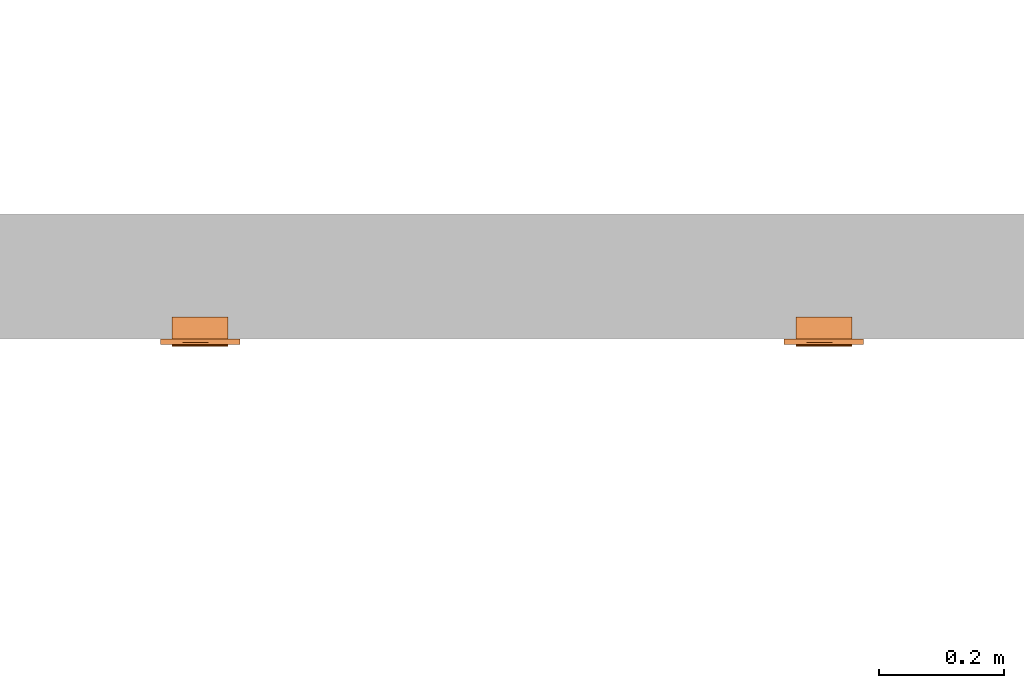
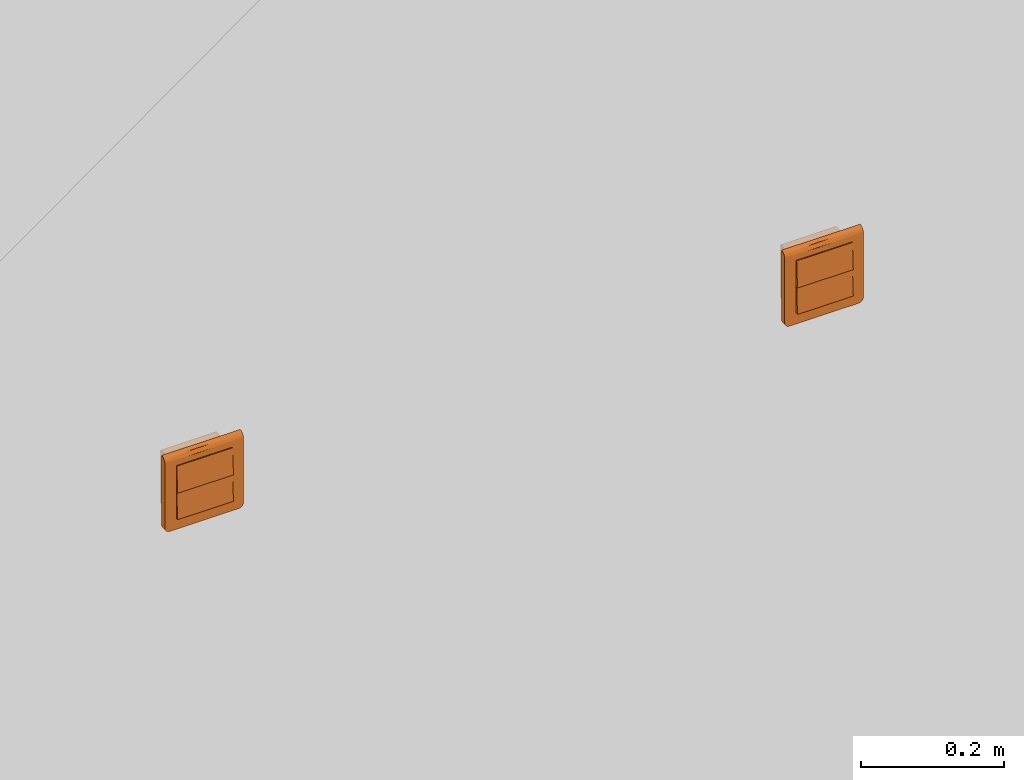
# One storey, part 174 of 197: 2 proxies.
"""IFC2X3 building model written with IfcOpenShell, lengths in metres."""

from ifc_helpers import new_model, entity, si_unit, converted_unit, direction, frame, origin, place, context, subcontext, project, spatial, faceted_brep, source, transform, mapped, material, material_list, type_object, type_shapes, element, save


model = new_model("IFC2X3")

# Units and contexts
model_context = context("Model", 3, precision=1e-05, world=origin(), true_north=direction((6.123031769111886e-17, 1.0)))
body_context = subcontext(model_context, "Body", "Model", "MODEL_VIEW")
ifc_project = project(units=[si_unit("LENGTHUNIT", "METRE"), converted_unit("PLANEANGLEUNIT", "DEGREE", entity("IfcPlaneAngleMeasure", 0.017453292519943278), si_unit("PLANEANGLEUNIT", "RADIAN"), dimensions=[0, 0, 0, 0, 0, 0, 0]), si_unit("AREAUNIT", "SQUARE_METRE")], contexts=[model_context])

# Site, building, storey
site_placement = place(None, origin())
site = spatial("IfcSite", under=ifc_project, at=site_placement, Name="Default", CompositionType="ELEMENT")
building_placement = place(site_placement, origin())
building = spatial("IfcBuilding", under=site, at=building_placement, CompositionType="ELEMENT")
storey_placement = place(building_placement, origin())
storey = spatial("IfcBuildingStorey", under=building, at=storey_placement, Name="Niveau 0", CompositionType="ELEMENT", Elevation=0.0)

# Proxies
ifc_material_1 = material(Name="<Unnamed>")
ifc_material_2 = material(Name="BETCE-DOIGT-BLANC")
ifc_material_3 = material(Name="BETCE-ENJOLIVEUR-BLANC")
ifc_material_list = material_list([ifc_material_1, ifc_material_2, ifc_material_3])
building_element_proxy_type_1 = type_object("IfcBuildingElementProxyType", Name="Tableau commande 2x4 modules encastré:1 BP + 7 SA", PredefinedType="NOTDEFINED", material=ifc_material_list)
shared_shape_1 = source(origin(), body_context, "Body", "Brep", [
    faceted_brep([(0.04499999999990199, 0.0, 0.0), (0.04499999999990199, 0.03499999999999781, 0.0), (0.022499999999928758, 0.03499999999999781, 0.0), (0.022499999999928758, 0.0, 0.0), (0.04499999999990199, 0.0, -0.045000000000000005), (0.022499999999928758, 0.0, -0.045000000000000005), (0.022499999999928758, 0.03499999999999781, -0.045000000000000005), (0.04499999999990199, 0.03499999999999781, -0.045000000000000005)], [[[0, 1, 2, 3]], [[4, 5, 6, 7]], [[1, 0, 4, 7]], [[2, 1, 7, 6]], [[3, 2, 6, 5]], [[0, 3, 5, 4]]]),
    faceted_brep([(0.04499999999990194, 0.0, 0.045000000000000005), (0.04499999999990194, 0.03499999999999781, 0.045000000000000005), (0.022499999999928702, 0.03499999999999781, 0.045000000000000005), (0.022499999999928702, 0.0, 0.045000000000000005), (0.04499999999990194, 0.0, 0.0), (0.022499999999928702, 0.0, 0.0), (0.022499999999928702, 0.03499999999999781, 0.0), (0.04499999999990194, 0.03499999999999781, 0.0)], [[[0, 1, 2, 3]], [[4, 5, 6, 7]], [[1, 0, 4, 7]], [[2, 1, 7, 6]], [[3, 2, 6, 5]], [[0, 3, 5, 4]]]),
    faceted_brep([(0.022499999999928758, 0.0, 0.0), (0.022499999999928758, 0.03499999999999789, 0.0), (0.0, 0.03499999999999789, 0.0), (0.0, 0.0, 0.0), (0.022499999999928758, 0.0, -0.045000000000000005), (0.0, 0.0, -0.045000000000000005), (0.0, 0.03499999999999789, -0.045000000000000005), (0.022499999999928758, 0.03499999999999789, -0.045000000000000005)], [[[0, 1, 2, 3]], [[4, 5, 6, 7]], [[1, 0, 4, 7]], [[2, 1, 7, 6]], [[3, 2, 6, 5]], [[0, 3, 5, 4]]]),
    faceted_brep([(0.0224999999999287, 0.0, 0.045000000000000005), (0.0224999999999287, 0.03499999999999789, 0.045000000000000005), (0.0, 0.03499999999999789, 0.045000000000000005), (0.0, 0.0, 0.045000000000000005), (0.0224999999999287, 0.0, 0.0), (0.0, 0.0, 0.0), (0.0, 0.03499999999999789, 0.0), (0.0224999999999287, 0.03499999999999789, 0.0)], [[[0, 1, 2, 3]], [[4, 5, 6, 7]], [[1, 0, 4, 7]], [[2, 1, 7, 6]], [[3, 2, 6, 5]], [[0, 3, 5, 4]]]),
    faceted_brep([(0.0, 0.0, 0.0), (0.0, 0.034999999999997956, 0.0), (-0.022500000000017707, 0.034999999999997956, 0.0), (-0.022500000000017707, 0.0, 0.0), (0.0, 0.0, -0.045000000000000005), (-0.022500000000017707, 0.0, -0.045000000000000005), (-0.022500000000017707, 0.034999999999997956, -0.045000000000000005), (0.0, 0.034999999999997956, -0.045000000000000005)], [[[0, 1, 2, 3]], [[4, 5, 6, 7]], [[1, 0, 4, 7]], [[2, 1, 7, 6]], [[3, 2, 6, 5]], [[0, 3, 5, 4]]]),
    faceted_brep([(0.0, 0.0, 0.045000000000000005), (0.0, 0.034999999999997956, 0.045000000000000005), (-0.022500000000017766, 0.034999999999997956, 0.045000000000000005), (-0.022500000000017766, 0.0, 0.045000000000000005), (0.0, 0.0, 0.0), (-0.022500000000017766, 0.0, 0.0), (-0.022500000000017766, 0.034999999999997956, 0.0), (0.0, 0.034999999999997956, 0.0)], [[[0, 1, 2, 3]], [[4, 5, 6, 7]], [[1, 0, 4, 7]], [[2, 1, 7, 6]], [[3, 2, 6, 5]], [[0, 3, 5, 4]]]),
    faceted_brep([(-0.02250000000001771, 0.0, 0.0), (-0.02250000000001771, 0.034999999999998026, 0.0), (-0.044999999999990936, 0.034999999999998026, 0.0), (-0.044999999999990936, 0.0, 0.0), (-0.02250000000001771, 0.0, -0.045000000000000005), (-0.044999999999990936, 0.0, -0.045000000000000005), (-0.044999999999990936, 0.034999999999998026, -0.045000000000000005), (-0.02250000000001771, 0.034999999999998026, -0.045000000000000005)], [[[0, 1, 2, 3]], [[4, 5, 6, 7]], [[1, 0, 4, 7]], [[2, 1, 7, 6]], [[3, 2, 6, 5]], [[0, 3, 5, 4]]]),
    faceted_brep([(-0.022500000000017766, 0.0, 0.045000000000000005), (-0.022500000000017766, 0.034999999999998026, 0.045000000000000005), (-0.044999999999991, 0.034999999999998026, 0.045000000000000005), (-0.044999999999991, 0.0, 0.045000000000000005), (-0.022500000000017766, 0.0, 0.0), (-0.044999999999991, 0.0, 0.0), (-0.044999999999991, 0.034999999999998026, 0.0), (-0.022500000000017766, 0.034999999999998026, 0.0)], [[[0, 1, 2, 3]], [[4, 5, 6, 7]], [[1, 0, 4, 7]], [[2, 1, 7, 6]], [[3, 2, 6, 5]], [[0, 3, 5, 4]]]),
    faceted_brep([(0.022499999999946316, 0.0, -0.045000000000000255), (0.022499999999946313, 0.0, 0.0), (0.04499999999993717, 0.0, 0.0), (0.04499999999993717, 0.0, -0.045000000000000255), (0.022499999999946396, -0.012750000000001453, -0.045000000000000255), (0.022499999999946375, -0.010500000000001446, 0.0), (0.044999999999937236, -0.010500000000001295, 0.0), (0.04499999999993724, -0.012750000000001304, -0.045000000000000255)], [[[0, 1, 2, 3]], [[1, 0, 4, 5]], [[2, 1, 5, 6]], [[3, 2, 6, 7]], [[0, 3, 7, 4]], [[5, 4, 7, 6]]]),
    faceted_brep([(0.0, 0.0, -0.04500000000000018), (0.0, 0.0, 0.0), (0.022499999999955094, 0.0, 0.0), (0.022499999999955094, 0.0, -0.04500000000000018), (0.0, -0.012750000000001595, -0.04500000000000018), (0.0, -0.010500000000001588, 0.0), (0.022499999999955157, -0.01050000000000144, 0.0), (0.022499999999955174, -0.012750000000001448, -0.04500000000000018)], [[[0, 1, 2, 3]], [[1, 0, 4, 5]], [[2, 1, 5, 6]], [[3, 2, 6, 7]], [[0, 3, 7, 4]], [[5, 4, 7, 6]]]),
    faceted_brep([(-0.022500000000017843, 0.0, -0.0450000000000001), (-0.022500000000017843, 0.0, 0.0), (0.0, 0.0, 0.0), (0.0, 0.0, -0.0450000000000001), (-0.02250000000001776, -0.012750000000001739, -0.0450000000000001), (-0.022500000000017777, -0.010500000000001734, 0.0), (0.0, -0.010500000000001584, 0.0), (0.0, -0.012750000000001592, -0.0450000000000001)], [[[0, 1, 2, 3]], [[1, 0, 4, 5]], [[2, 1, 5, 6]], [[3, 2, 6, 7]], [[0, 3, 7, 4]], [[5, 4, 7, 6]]]),
    faceted_brep([(-0.04499999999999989, 0.0, -0.045000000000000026), (-0.04499999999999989, 0.0, 0.0), (-0.022500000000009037, 0.0, 0.0), (-0.022500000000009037, 0.0, -0.045000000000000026), (-0.04499999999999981, -0.012750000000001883, -0.045000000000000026), (-0.04499999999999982, -0.010500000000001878, 0.0), (-0.022500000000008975, -0.01050000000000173, 0.0), (-0.022500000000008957, -0.012750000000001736, -0.045000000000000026)], [[[0, 1, 2, 3]], [[1, 0, 4, 5]], [[2, 1, 5, 6]], [[3, 2, 6, 7]], [[0, 3, 7, 4]], [[5, 4, 7, 6]]]),
    faceted_brep([(0.02249999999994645, -0.010500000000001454, 0.04499999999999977), (0.022499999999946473, -0.012750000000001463, 0.0), (0.04499999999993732, -0.012750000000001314, 0.0), (0.044999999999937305, -0.010500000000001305, 0.04499999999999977), (0.022499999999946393, 0.0, 0.0), (0.02249999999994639, 0.0, 0.04499999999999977), (0.04499999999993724, 0.0, 0.04499999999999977), (0.04499999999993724, 0.0, 0.0)], [[[0, 1, 2, 3]], [[4, 5, 6, 7]], [[5, 4, 1, 0]], [[6, 5, 0, 3]], [[7, 6, 3, 2]], [[4, 7, 2, 1]]]),
    faceted_brep([(0.0, -0.010500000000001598, 0.044999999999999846), (0.0, -0.012750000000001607, 0.0), (0.02249999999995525, -0.012750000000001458, 0.0), (0.022499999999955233, -0.010500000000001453, 0.044999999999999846), (0.0, 0.0, 0.0), (0.0, 0.0, 0.044999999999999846), (0.02249999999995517, 0.0, 0.04499999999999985), (0.02249999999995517, 0.0, 0.0)], [[[0, 1, 2, 3]], [[4, 5, 6, 7]], [[5, 4, 1, 0]], [[6, 5, 0, 3]], [[7, 6, 3, 2]], [[4, 7, 2, 1]]]),
    faceted_brep([(-0.0225000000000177, -0.010500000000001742, 0.04499999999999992), (-0.022500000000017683, -0.01275000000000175, 0.0), (0.0, -0.012750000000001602, 0.0), (0.0, -0.010500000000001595, 0.04499999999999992), (-0.022500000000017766, 0.0, 0.0), (-0.022500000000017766, 0.0, 0.04499999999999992), (0.0, 0.0, 0.04499999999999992), (0.0, 0.0, 0.0)], [[[0, 1, 2, 3]], [[4, 5, 6, 7]], [[5, 4, 1, 0]], [[6, 5, 0, 3]], [[7, 6, 3, 2]], [[4, 7, 2, 1]]]),
    faceted_brep([(-0.044999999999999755, -0.010500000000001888, 0.045), (-0.044999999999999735, -0.012750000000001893, 0.0), (-0.02250000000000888, -0.012750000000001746, 0.0), (-0.0225000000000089, -0.010500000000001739, 0.045), (-0.04499999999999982, 0.0, 0.0), (-0.04499999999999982, 0.0, 0.045), (-0.022500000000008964, 0.0, 0.045000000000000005), (-0.022500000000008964, 0.0, 0.0)], [[[0, 1, 2, 3]], [[4, 5, 6, 7]], [[5, 4, 1, 0]], [[6, 5, 0, 3]], [[7, 6, 3, 2]], [[4, 7, 2, 1]]]),
    faceted_brep([(0.06350000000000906, -0.009000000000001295, -0.055500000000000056), (0.06350000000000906, -0.009000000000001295, 0.05450000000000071), (0.045000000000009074, -0.00900000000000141, -0.045000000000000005), (0.055500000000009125, -0.009000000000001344, -0.06350000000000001), (0.057570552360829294, -0.009000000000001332, -0.06322740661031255), (0.06322740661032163, -0.009000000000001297, -0.05757055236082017), (0.04500000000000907, -0.00900000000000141, 0.045), (-0.044999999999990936, -0.00900000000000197, 0.045000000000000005), (-0.01112442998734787, -0.009000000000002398, 0.054500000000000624), (-0.06349999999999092, -0.009000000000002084, 0.05450000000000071), (-0.044999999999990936, -0.00900000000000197, -0.045000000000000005), (-0.06349999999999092, -0.009000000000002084, -0.05550000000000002), (-0.055499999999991, -0.009000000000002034, -0.06350000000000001), (-0.0575705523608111, -0.009000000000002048, -0.06322740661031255), (-0.06322740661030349, -0.009000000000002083, -0.05757055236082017), (-0.05949999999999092, -0.00900000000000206, -0.062428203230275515), (-0.062428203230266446, -0.009000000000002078, -0.05950000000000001), (-0.06115685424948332, -0.00900000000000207, -0.06115685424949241), (0.059500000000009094, -0.00900000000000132, -0.062428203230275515), (0.062428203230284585, -0.009000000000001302, -0.05949999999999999), (0.06115685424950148, -0.009000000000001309, -0.061156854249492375), (-0.063499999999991, 0.0, -0.05550000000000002), (-0.063499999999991, 0.0, 0.06350000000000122), (-0.044999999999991, 0.0, 0.045000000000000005), (-0.044999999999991, 0.0, -0.045000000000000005), (-0.055499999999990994, 0.0, -0.06350000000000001), (-0.06322740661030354, 0.0, -0.05757055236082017), (0.045000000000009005, 0.0, 0.045000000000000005), (0.011124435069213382, 0.0, 0.06350000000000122), (0.06350000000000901, 0.0, 0.0635), (0.06350000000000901, 0.0, -0.05550000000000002), (0.045000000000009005, 0.0, -0.045000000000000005), (0.05550000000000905, 0.0, -0.06350000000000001), (0.06322740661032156, 0.0, -0.05757055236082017), (0.057570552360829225, 0.0, -0.06322740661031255), (0.06242820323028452, 0.0, -0.05949999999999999), (0.05950000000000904, 0.0, -0.062428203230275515), (0.06115685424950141, 0.0, -0.061156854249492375), (-0.05757055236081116, 0.0, -0.06322740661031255), (-0.0624282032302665, 0.0, -0.05950000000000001), (-0.059499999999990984, 0.0, -0.062428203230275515), (-0.06115685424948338, 0.0, -0.06115685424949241), (0.06350000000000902, -0.00232937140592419, 0.06319333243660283), (0.06350000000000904, -0.004500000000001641, 0.06229422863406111), (0.06350000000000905, -0.006363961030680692, 0.06086396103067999), (0.06350000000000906, -0.007794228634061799, 0.05900000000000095), (0.06350000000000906, -0.008693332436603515, 0.056829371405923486), (-0.06349999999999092, -0.00869333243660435, 0.0568293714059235), (-0.06349999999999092, -0.007794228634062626, 0.059000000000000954), (-0.06349999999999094, -0.006363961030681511, 0.06086396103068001), (-0.06349999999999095, -0.004500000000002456, 0.062294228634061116), (-0.06349999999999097, -0.002329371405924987, 0.06319333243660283), (-0.010857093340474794, -0.006120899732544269, 0.06109807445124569)], [[[0, 1, 2]], [[3, 0, 2]], [[0, 3, 4]], [[5, 0, 4]], [[2, 1, 6]], [[1, 7, 6]], [[7, 1, 8]], [[7, 8, 9]], [[10, 7, 9]], [[11, 10, 9]], [[12, 10, 11]], [[12, 11, 13]], [[13, 11, 14]], [[15, 13, 14]], [[16, 15, 14]], [[15, 16, 17]], [[10, 12, 3]], [[2, 10, 3]], [[5, 4, 18]], [[5, 18, 19]], [[20, 19, 18]], [[21, 22, 23]], [[24, 21, 23]], [[25, 21, 24]], [[26, 21, 25]], [[22, 27, 23]], [[27, 22, 28]], [[27, 28, 29]], [[30, 27, 29]], [[31, 27, 30]], [[32, 31, 30]], [[32, 30, 33]], [[32, 33, 34]], [[33, 35, 34]], [[35, 36, 34]], [[36, 35, 37]], [[31, 32, 25]], [[26, 25, 38]], [[24, 31, 25]], [[39, 26, 38]], [[39, 38, 40]], [[41, 39, 40]], [[1, 0, 30, 29, 42, 43, 44, 45, 46]], [[33, 30, 0, 5]], [[35, 33, 5, 19]], [[37, 35, 19, 20]], [[36, 37, 20, 18]], [[34, 36, 18, 4]], [[32, 34, 4, 3]], [[25, 32, 3, 12]], [[38, 25, 12, 13]], [[40, 38, 13, 15]], [[41, 40, 15, 17]], [[39, 41, 17, 16]], [[26, 39, 16, 14]], [[21, 26, 14, 11]], [[22, 21, 11, 9, 47, 48, 49, 50, 51]], [[24, 23, 7, 10]], [[31, 24, 10, 2]], [[27, 31, 2, 6]], [[23, 27, 6, 7]], [[52, 8, 45]], [[47, 9, 8]], [[1, 46, 8]], [[44, 52, 45]], [[46, 45, 8]], [[50, 52, 51]], [[48, 47, 8]], [[28, 52, 43]], [[48, 52, 49]], [[42, 29, 28]], [[28, 22, 51]], [[48, 8, 52]], [[28, 43, 42]], [[44, 43, 52]], [[52, 50, 49]], [[52, 28, 51]]]),
])
type_shapes(building_element_proxy_type_1, [shared_shape_1])
proxy_1_placement = place(storey_placement, frame((-362.53477966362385, 122.781355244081, 1.1)))
element("IfcBuildingElementProxy", 1, at=proxy_1_placement, inside=storey, type_object=building_element_proxy_type_1, material=ifc_material_list, Name="Tableau commande 2x4 modules encastré:1 BP + 7 SA", ObjectType="Tableau commande 2x4 modules encastré:1 BP + 7 SA", context=body_context, shape_type="MappedRepresentation", body=[
    mapped(shared_shape_1, transform((0.0, 0.0, 0.0), scale=1.0)),
])
building_element_proxy_type_2 = type_object("IfcBuildingElementProxyType", Name="Tableau commande 2x4 modules encastré:2 BP + 6 SA", PredefinedType="NOTDEFINED", material=ifc_material_list)
shared_shape_2 = source(origin(), body_context, "Body", "Brep", [
    faceted_brep([(0.04499999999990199, 0.0, 0.0), (0.04499999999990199, 0.03499999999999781, 0.0), (0.022499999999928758, 0.03499999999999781, 0.0), (0.022499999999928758, 0.0, 0.0), (0.04499999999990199, 0.0, -0.045000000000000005), (0.022499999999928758, 0.0, -0.045000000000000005), (0.022499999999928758, 0.03499999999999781, -0.045000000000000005), (0.04499999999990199, 0.03499999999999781, -0.045000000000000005)], [[[0, 1, 2, 3]], [[4, 5, 6, 7]], [[1, 0, 4, 7]], [[2, 1, 7, 6]], [[3, 2, 6, 5]], [[0, 3, 5, 4]]]),
    faceted_brep([(0.04499999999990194, 0.0, 0.045000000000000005), (0.04499999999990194, 0.03499999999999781, 0.045000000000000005), (0.022499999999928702, 0.03499999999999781, 0.045000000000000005), (0.022499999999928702, 0.0, 0.045000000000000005), (0.04499999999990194, 0.0, 0.0), (0.022499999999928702, 0.0, 0.0), (0.022499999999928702, 0.03499999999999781, 0.0), (0.04499999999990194, 0.03499999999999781, 0.0)], [[[0, 1, 2, 3]], [[4, 5, 6, 7]], [[1, 0, 4, 7]], [[2, 1, 7, 6]], [[3, 2, 6, 5]], [[0, 3, 5, 4]]]),
    faceted_brep([(0.022499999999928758, 0.0, 0.0), (0.022499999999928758, 0.03499999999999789, 0.0), (0.0, 0.03499999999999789, 0.0), (0.0, 0.0, 0.0), (0.022499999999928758, 0.0, -0.045000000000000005), (0.0, 0.0, -0.045000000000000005), (0.0, 0.03499999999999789, -0.045000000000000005), (0.022499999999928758, 0.03499999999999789, -0.045000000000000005)], [[[0, 1, 2, 3]], [[4, 5, 6, 7]], [[1, 0, 4, 7]], [[2, 1, 7, 6]], [[3, 2, 6, 5]], [[0, 3, 5, 4]]]),
    faceted_brep([(0.0224999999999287, 0.0, 0.045000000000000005), (0.0224999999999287, 0.03499999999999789, 0.045000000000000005), (0.0, 0.03499999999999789, 0.045000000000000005), (0.0, 0.0, 0.045000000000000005), (0.0224999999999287, 0.0, 0.0), (0.0, 0.0, 0.0), (0.0, 0.03499999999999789, 0.0), (0.0224999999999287, 0.03499999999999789, 0.0)], [[[0, 1, 2, 3]], [[4, 5, 6, 7]], [[1, 0, 4, 7]], [[2, 1, 7, 6]], [[3, 2, 6, 5]], [[0, 3, 5, 4]]]),
    faceted_brep([(0.0, 0.0, 0.0), (0.0, 0.034999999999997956, 0.0), (-0.022500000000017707, 0.034999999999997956, 0.0), (-0.022500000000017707, 0.0, 0.0), (0.0, 0.0, -0.045000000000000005), (-0.022500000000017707, 0.0, -0.045000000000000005), (-0.022500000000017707, 0.034999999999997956, -0.045000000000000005), (0.0, 0.034999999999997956, -0.045000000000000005)], [[[0, 1, 2, 3]], [[4, 5, 6, 7]], [[1, 0, 4, 7]], [[2, 1, 7, 6]], [[3, 2, 6, 5]], [[0, 3, 5, 4]]]),
    faceted_brep([(0.0, 0.0, 0.045000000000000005), (0.0, 0.034999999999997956, 0.045000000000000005), (-0.022500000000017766, 0.034999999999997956, 0.045000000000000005), (-0.022500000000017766, 0.0, 0.045000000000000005), (0.0, 0.0, 0.0), (-0.022500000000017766, 0.0, 0.0), (-0.022500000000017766, 0.034999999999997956, 0.0), (0.0, 0.034999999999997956, 0.0)], [[[0, 1, 2, 3]], [[4, 5, 6, 7]], [[1, 0, 4, 7]], [[2, 1, 7, 6]], [[3, 2, 6, 5]], [[0, 3, 5, 4]]]),
    faceted_brep([(-0.02250000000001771, 0.0, 0.0), (-0.02250000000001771, 0.034999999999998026, 0.0), (-0.044999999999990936, 0.034999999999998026, 0.0), (-0.044999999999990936, 0.0, 0.0), (-0.02250000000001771, 0.0, -0.045000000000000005), (-0.044999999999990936, 0.0, -0.045000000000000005), (-0.044999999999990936, 0.034999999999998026, -0.045000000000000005), (-0.02250000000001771, 0.034999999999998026, -0.045000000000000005)], [[[0, 1, 2, 3]], [[4, 5, 6, 7]], [[1, 0, 4, 7]], [[2, 1, 7, 6]], [[3, 2, 6, 5]], [[0, 3, 5, 4]]]),
    faceted_brep([(-0.022500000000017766, 0.0, 0.045000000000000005), (-0.022500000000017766, 0.034999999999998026, 0.045000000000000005), (-0.044999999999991, 0.034999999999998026, 0.045000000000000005), (-0.044999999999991, 0.0, 0.045000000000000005), (-0.022500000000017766, 0.0, 0.0), (-0.044999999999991, 0.0, 0.0), (-0.044999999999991, 0.034999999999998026, 0.0), (-0.022500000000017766, 0.034999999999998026, 0.0)], [[[0, 1, 2, 3]], [[4, 5, 6, 7]], [[1, 0, 4, 7]], [[2, 1, 7, 6]], [[3, 2, 6, 5]], [[0, 3, 5, 4]]]),
    faceted_brep([(0.022499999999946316, 0.0, -0.045000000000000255), (0.022499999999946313, 0.0, 0.0), (0.04499999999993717, 0.0, 0.0), (0.04499999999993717, 0.0, -0.045000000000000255), (0.022499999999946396, -0.012750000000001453, -0.045000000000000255), (0.022499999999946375, -0.010500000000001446, 0.0), (0.044999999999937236, -0.010500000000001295, 0.0), (0.04499999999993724, -0.012750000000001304, -0.045000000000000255)], [[[0, 1, 2, 3]], [[1, 0, 4, 5]], [[2, 1, 5, 6]], [[3, 2, 6, 7]], [[0, 3, 7, 4]], [[5, 4, 7, 6]]]),
    faceted_brep([(0.0, 0.0, -0.04500000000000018), (0.0, 0.0, 0.0), (0.022499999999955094, 0.0, 0.0), (0.022499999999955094, 0.0, -0.04500000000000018), (0.0, -0.012750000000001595, -0.04500000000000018), (0.0, -0.010500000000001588, 0.0), (0.022499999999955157, -0.01050000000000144, 0.0), (0.022499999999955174, -0.012750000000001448, -0.04500000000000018)], [[[0, 1, 2, 3]], [[1, 0, 4, 5]], [[2, 1, 5, 6]], [[3, 2, 6, 7]], [[0, 3, 7, 4]], [[5, 4, 7, 6]]]),
    faceted_brep([(-0.022500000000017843, 0.0, -0.0450000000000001), (-0.022500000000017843, 0.0, 0.0), (0.0, 0.0, 0.0), (0.0, 0.0, -0.0450000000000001), (-0.02250000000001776, -0.012750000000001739, -0.0450000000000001), (-0.022500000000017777, -0.010500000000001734, 0.0), (0.0, -0.010500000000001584, 0.0), (0.0, -0.012750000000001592, -0.0450000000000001)], [[[0, 1, 2, 3]], [[1, 0, 4, 5]], [[2, 1, 5, 6]], [[3, 2, 6, 7]], [[0, 3, 7, 4]], [[5, 4, 7, 6]]]),
    faceted_brep([(-0.04499999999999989, 0.0, -0.045000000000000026), (-0.04499999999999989, 0.0, 0.0), (-0.022500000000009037, 0.0, 0.0), (-0.022500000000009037, 0.0, -0.045000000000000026), (-0.04499999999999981, -0.012750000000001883, -0.045000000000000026), (-0.04499999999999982, -0.010500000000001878, 0.0), (-0.022500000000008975, -0.01050000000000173, 0.0), (-0.022500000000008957, -0.012750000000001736, -0.045000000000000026)], [[[0, 1, 2, 3]], [[1, 0, 4, 5]], [[2, 1, 5, 6]], [[3, 2, 6, 7]], [[0, 3, 7, 4]], [[5, 4, 7, 6]]]),
    faceted_brep([(0.02249999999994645, -0.010500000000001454, 0.04499999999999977), (0.022499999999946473, -0.012750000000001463, 0.0), (0.04499999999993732, -0.012750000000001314, 0.0), (0.044999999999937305, -0.010500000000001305, 0.04499999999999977), (0.022499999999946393, 0.0, 0.0), (0.02249999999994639, 0.0, 0.04499999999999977), (0.04499999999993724, 0.0, 0.04499999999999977), (0.04499999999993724, 0.0, 0.0)], [[[0, 1, 2, 3]], [[4, 5, 6, 7]], [[5, 4, 1, 0]], [[6, 5, 0, 3]], [[7, 6, 3, 2]], [[4, 7, 2, 1]]]),
    faceted_brep([(0.0, -0.010500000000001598, 0.044999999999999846), (0.0, -0.012750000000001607, 0.0), (0.02249999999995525, -0.012750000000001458, 0.0), (0.022499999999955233, -0.010500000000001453, 0.044999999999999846), (0.0, 0.0, 0.0), (0.0, 0.0, 0.044999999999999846), (0.02249999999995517, 0.0, 0.04499999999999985), (0.02249999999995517, 0.0, 0.0)], [[[0, 1, 2, 3]], [[4, 5, 6, 7]], [[5, 4, 1, 0]], [[6, 5, 0, 3]], [[7, 6, 3, 2]], [[4, 7, 2, 1]]]),
    faceted_brep([(-0.0225000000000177, -0.010500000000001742, 0.04499999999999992), (-0.022500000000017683, -0.01275000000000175, 0.0), (0.0, -0.012750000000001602, 0.0), (0.0, -0.010500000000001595, 0.04499999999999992), (-0.022500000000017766, 0.0, 0.0), (-0.022500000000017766, 0.0, 0.04499999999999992), (0.0, 0.0, 0.04499999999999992), (0.0, 0.0, 0.0)], [[[0, 1, 2, 3]], [[4, 5, 6, 7]], [[5, 4, 1, 0]], [[6, 5, 0, 3]], [[7, 6, 3, 2]], [[4, 7, 2, 1]]]),
    faceted_brep([(-0.044999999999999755, -0.010500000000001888, 0.045), (-0.044999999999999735, -0.012750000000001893, 0.0), (-0.02250000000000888, -0.012750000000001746, 0.0), (-0.0225000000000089, -0.010500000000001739, 0.045), (-0.04499999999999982, 0.0, 0.0), (-0.04499999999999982, 0.0, 0.045), (-0.022500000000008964, 0.0, 0.045000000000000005), (-0.022500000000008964, 0.0, 0.0)], [[[0, 1, 2, 3]], [[4, 5, 6, 7]], [[5, 4, 1, 0]], [[6, 5, 0, 3]], [[7, 6, 3, 2]], [[4, 7, 2, 1]]]),
    faceted_brep([(0.06350000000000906, -0.009000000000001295, -0.055500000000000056), (0.06350000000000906, -0.009000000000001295, 0.05450000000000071), (0.045000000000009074, -0.00900000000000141, -0.045000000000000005), (0.055500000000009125, -0.009000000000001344, -0.06350000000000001), (0.057570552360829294, -0.009000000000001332, -0.06322740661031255), (0.06322740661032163, -0.009000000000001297, -0.05757055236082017), (0.04500000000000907, -0.00900000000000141, 0.045), (-0.044999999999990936, -0.00900000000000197, 0.045000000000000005), (-0.01112442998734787, -0.009000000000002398, 0.054500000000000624), (-0.06349999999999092, -0.009000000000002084, 0.05450000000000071), (-0.044999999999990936, -0.00900000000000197, -0.045000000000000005), (-0.06349999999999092, -0.009000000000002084, -0.05550000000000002), (-0.055499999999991, -0.009000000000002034, -0.06350000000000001), (-0.0575705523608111, -0.009000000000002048, -0.06322740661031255), (-0.06322740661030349, -0.009000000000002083, -0.05757055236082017), (-0.05949999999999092, -0.00900000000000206, -0.062428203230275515), (-0.062428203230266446, -0.009000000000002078, -0.05950000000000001), (-0.06115685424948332, -0.00900000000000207, -0.06115685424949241), (0.059500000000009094, -0.00900000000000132, -0.062428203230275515), (0.062428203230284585, -0.009000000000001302, -0.05949999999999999), (0.06115685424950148, -0.009000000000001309, -0.061156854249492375), (-0.063499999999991, 0.0, -0.05550000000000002), (-0.063499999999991, 0.0, 0.06350000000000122), (-0.044999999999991, 0.0, 0.045000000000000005), (-0.044999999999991, 0.0, -0.045000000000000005), (-0.055499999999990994, 0.0, -0.06350000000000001), (-0.06322740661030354, 0.0, -0.05757055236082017), (0.045000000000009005, 0.0, 0.045000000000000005), (0.011124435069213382, 0.0, 0.06350000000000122), (0.06350000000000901, 0.0, 0.0635), (0.06350000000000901, 0.0, -0.05550000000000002), (0.045000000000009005, 0.0, -0.045000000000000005), (0.05550000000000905, 0.0, -0.06350000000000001), (0.06322740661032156, 0.0, -0.05757055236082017), (0.057570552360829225, 0.0, -0.06322740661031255), (0.06242820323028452, 0.0, -0.05949999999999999), (0.05950000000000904, 0.0, -0.062428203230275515), (0.06115685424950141, 0.0, -0.061156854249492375), (-0.05757055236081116, 0.0, -0.06322740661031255), (-0.0624282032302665, 0.0, -0.05950000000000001), (-0.059499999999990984, 0.0, -0.062428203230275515), (-0.06115685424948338, 0.0, -0.06115685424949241), (0.06350000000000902, -0.00232937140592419, 0.06319333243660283), (0.06350000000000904, -0.004500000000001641, 0.06229422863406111), (0.06350000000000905, -0.006363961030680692, 0.06086396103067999), (0.06350000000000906, -0.007794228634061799, 0.05900000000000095), (0.06350000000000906, -0.008693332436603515, 0.056829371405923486), (-0.06349999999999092, -0.00869333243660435, 0.0568293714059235), (-0.06349999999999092, -0.007794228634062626, 0.059000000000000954), (-0.06349999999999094, -0.006363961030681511, 0.06086396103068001), (-0.06349999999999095, -0.004500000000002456, 0.062294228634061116), (-0.06349999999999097, -0.002329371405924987, 0.06319333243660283), (-0.010857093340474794, -0.006120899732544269, 0.06109807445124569)], [[[0, 1, 2]], [[3, 0, 2]], [[0, 3, 4]], [[5, 0, 4]], [[2, 1, 6]], [[1, 7, 6]], [[7, 1, 8]], [[7, 8, 9]], [[10, 7, 9]], [[11, 10, 9]], [[12, 10, 11]], [[12, 11, 13]], [[13, 11, 14]], [[15, 13, 14]], [[16, 15, 14]], [[15, 16, 17]], [[10, 12, 3]], [[2, 10, 3]], [[5, 4, 18]], [[5, 18, 19]], [[20, 19, 18]], [[21, 22, 23]], [[24, 21, 23]], [[25, 21, 24]], [[26, 21, 25]], [[22, 27, 23]], [[27, 22, 28]], [[27, 28, 29]], [[30, 27, 29]], [[31, 27, 30]], [[32, 31, 30]], [[32, 30, 33]], [[32, 33, 34]], [[33, 35, 34]], [[35, 36, 34]], [[36, 35, 37]], [[31, 32, 25]], [[26, 25, 38]], [[24, 31, 25]], [[39, 26, 38]], [[39, 38, 40]], [[41, 39, 40]], [[1, 0, 30, 29, 42, 43, 44, 45, 46]], [[33, 30, 0, 5]], [[35, 33, 5, 19]], [[37, 35, 19, 20]], [[36, 37, 20, 18]], [[34, 36, 18, 4]], [[32, 34, 4, 3]], [[25, 32, 3, 12]], [[38, 25, 12, 13]], [[40, 38, 13, 15]], [[41, 40, 15, 17]], [[39, 41, 17, 16]], [[26, 39, 16, 14]], [[21, 26, 14, 11]], [[22, 21, 11, 9, 47, 48, 49, 50, 51]], [[24, 23, 7, 10]], [[31, 24, 10, 2]], [[27, 31, 2, 6]], [[23, 27, 6, 7]], [[52, 8, 45]], [[47, 9, 8]], [[1, 46, 8]], [[44, 52, 45]], [[46, 45, 8]], [[50, 52, 51]], [[48, 47, 8]], [[28, 52, 43]], [[48, 52, 49]], [[42, 29, 28]], [[28, 22, 51]], [[48, 8, 52]], [[28, 43, 42]], [[44, 43, 52]], [[52, 50, 49]], [[52, 28, 51]]]),
])
type_shapes(building_element_proxy_type_2, [shared_shape_2])
proxy_2_placement = place(storey_placement, frame((-361.5347796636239, 122.781355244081, 1.1)))
element("IfcBuildingElementProxy", 2, at=proxy_2_placement, inside=storey, type_object=building_element_proxy_type_2, material=ifc_material_list, Name="Tableau commande 2x4 modules encastré:2 BP + 6 SA", ObjectType="Tableau commande 2x4 modules encastré:2 BP + 6 SA", context=body_context, shape_type="MappedRepresentation", body=[
    mapped(shared_shape_2, transform((0.0, 0.0, 0.0), scale=1.0)),
])

save(model, "model.ifc")
